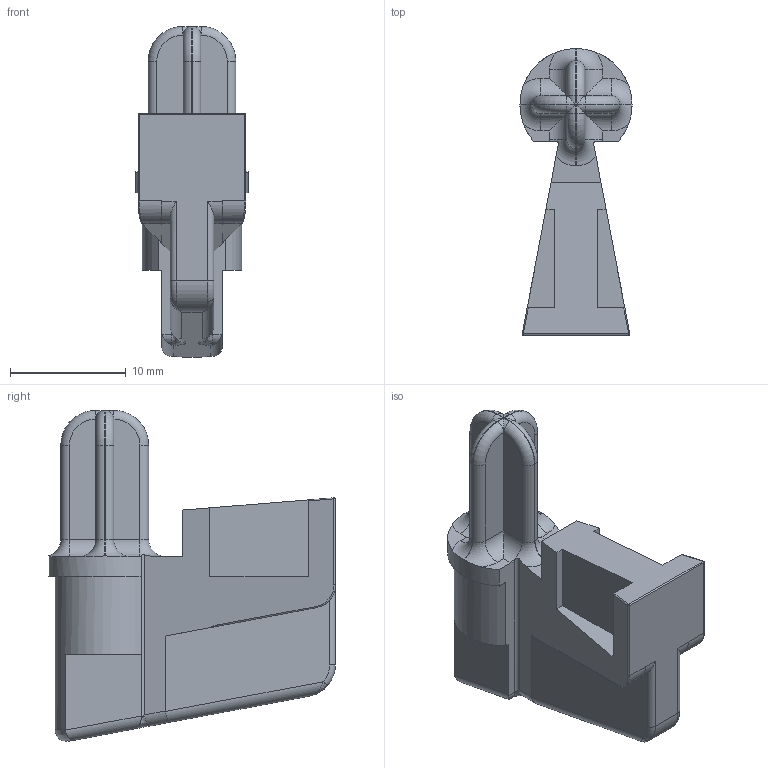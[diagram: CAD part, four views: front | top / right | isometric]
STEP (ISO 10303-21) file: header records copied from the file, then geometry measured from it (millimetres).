
FILE_DESCRIPTION(/* description */ (''),/* implementation_level */ '2;1');
FILE_NAME(/* name */ '//vboxsvr/bigsql-win-testing/CAD/DD2-GIT/freeman1337/cmmg-22lr-mag-25round/STEP/Follower-v3.step.step',/* time_stamp */ '2021-06-23T20:44:01-07:00',/* author */ (''),/* organization */ (''),/* preprocessor_version */ 'ST-DEVELOPER v18.1',/* originating_system */ 'Autodesk Translation Framework v10.9.0.1377',/* authorisation */ '');
FILE_SCHEMA (('AUTOMOTIVE_DESIGN { 1 0 10303 214 3 1 1 }'));
Length unit declared in the file: millimetre
Products named in the file (1): cmmg-25 round-Follower v6
Bounding box: 9.7 x 24.8 x 28.63 mm (x, y, z)
Volume: 2251.4 mm3; surface area: 1698.4 mm2
Topology: 1 solids, 1 shells, 140 faces, 361 edges, 216 vertices
Faces by surface type: cylinder 60, plane 50, torus 18, bspline 10, sphere 2
Entity records: 4660 total; most frequent: CARTESIAN_POINT 1273, DIRECTION 724, ORIENTED_EDGE 700, EDGE_CURVE 350, AXIS2_PLACEMENT_3D 273, VERTEX_POINT 212, LINE 178, VECTOR 178
